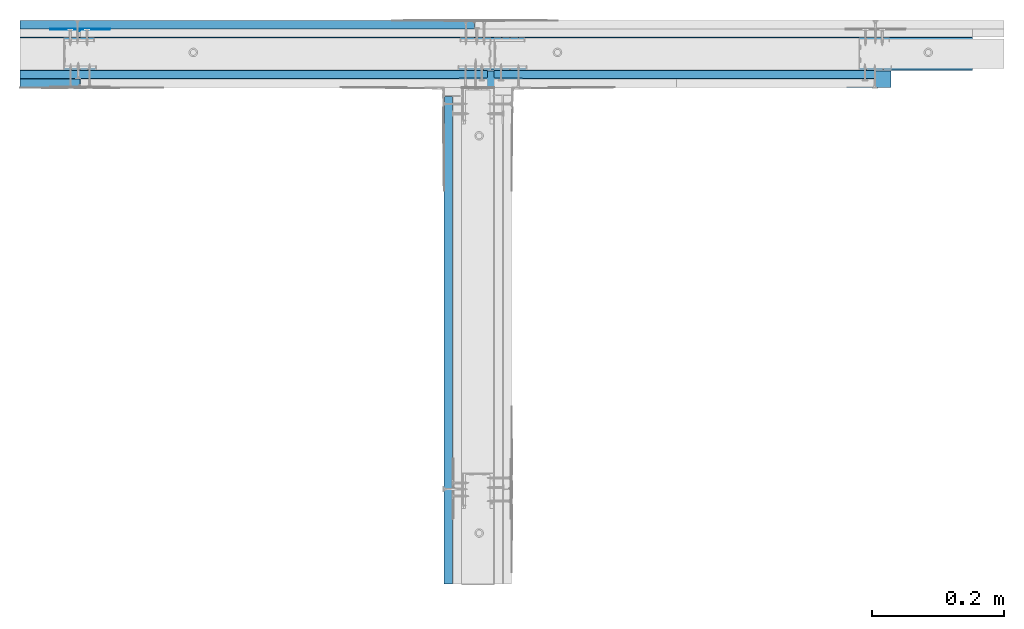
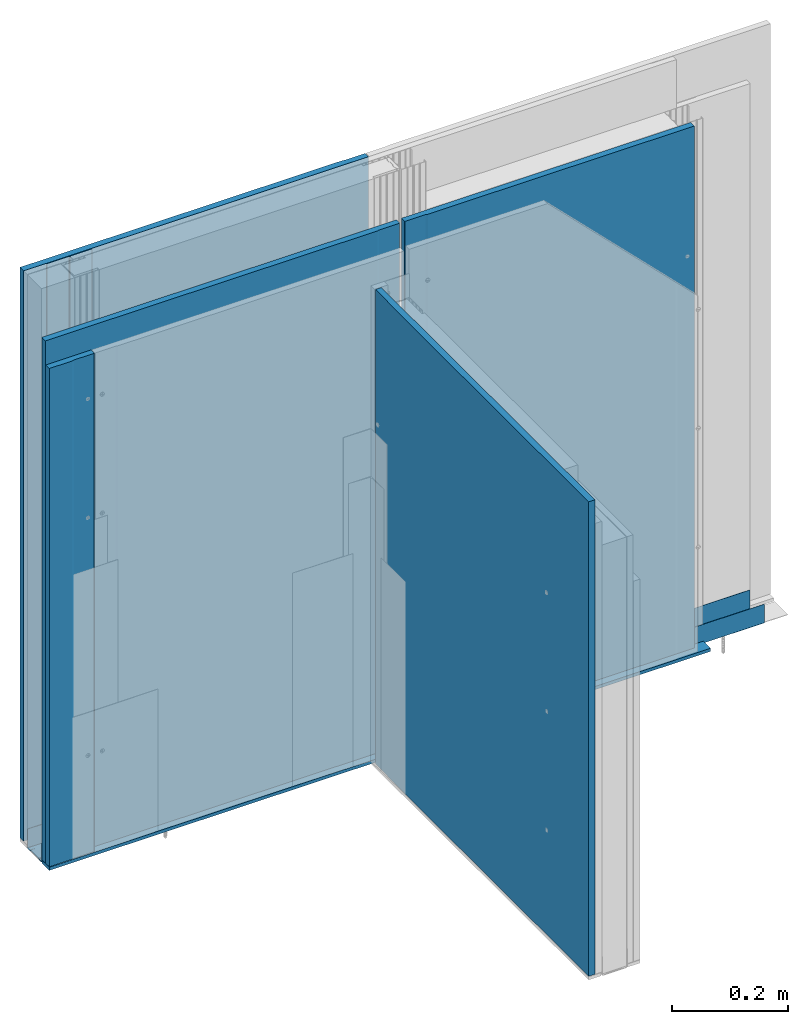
# One storey, part 4 of 95: 8 walls.
"""IFC2X3 building model written with IfcOpenShell, lengths in millimetres."""

from ifc_helpers import new_model, entity, si_unit, converted_unit, direction, frame, origin, origin_with_axes, place, context, project, spatial, faceted_brep, element, save


model = new_model("IFC2X3")

# Units and contexts
model_context = context("Model", 3, precision=1e-05, world=origin(), true_north=direction((0.0, 1.0, 0.0)))
ifc_project = project(units=[si_unit("LENGTHUNIT", "METRE", prefix="MILLI"), si_unit("AREAUNIT", "SQUARE_METRE"), si_unit("VOLUMEUNIT", "CUBIC_METRE"), converted_unit("PLANEANGLEUNIT", "DEGREE", entity("IfcPlaneAngleMeasure", 0.01745), si_unit("PLANEANGLEUNIT", "RADIAN"), dimensions=[0, 0, 0, 0, 0, 0, 0]), si_unit("SOLIDANGLEUNIT", "STERADIAN"), si_unit("MASSUNIT", "GRAM"), si_unit("TIMEUNIT", "SECOND"), si_unit("THERMODYNAMICTEMPERATUREUNIT", "DEGREE_CELSIUS"), si_unit("LUMINOUSINTENSITYUNIT", "LUMEN")], contexts=[model_context])

# Site, building, storey
site_placement = place(None, origin_with_axes())
site = spatial("IfcSite", under=ifc_project, at=site_placement, Name="Default Site", CompositionType="ELEMENT")
building_placement = place(site_placement, origin_with_axes())
building = spatial("IfcBuilding", under=site, at=building_placement, Name="Default Building", CompositionType="ELEMENT")
storey_placement = place(building_placement, origin_with_axes())
storey = spatial("IfcBuildingStorey", under=building, at=storey_placement, Name="Default Building Storey", CompositionType="ELEMENT", Elevation=0.0)

# Walls
wall_1_placement = place(storey_placement, frame((3345.250719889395, 5528.384991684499, 8.390395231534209), z_axis=(7.268591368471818e-14, -6.858158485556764e-13, 1.0), x_axis=(1.0, -1.018434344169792e-16, -7.988767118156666e-14)))
element("IfcWall", 1, at=wall_1_placement, inside=storey, Name="Profil RIGIPS UW 50 ULTRASTIL®", context=model_context, shape_type="Brep", body=[
    faceted_brep([(-1064.360336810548, -3470.476261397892, -4.901701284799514), (-1064.360336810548, -3470.287116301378, -4.783410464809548), (-1064.360336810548, -3470.128902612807, -4.626130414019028), (-1220.225586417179, -3470.128902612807, -4.626130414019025), (-1220.225586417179, -3470.476261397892, -4.901701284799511), (-1064.360336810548, -3470.063927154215, -4.535249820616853), (-1064.360336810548, -3470.009494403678, -4.437688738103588), (-1220.225586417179, -3470.009494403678, -4.437688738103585), (-1064.360336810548, -3440.279331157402, -4.783410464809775), (-1064.360336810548, -3440.090186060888, -4.901701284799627), (-1064.360336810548, -3439.87952304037, -4.97511570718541), (-1220.225586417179, -3439.87952304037, -4.975115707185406), (-1220.225586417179, -3440.279331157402, -4.783410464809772), (-1064.360336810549, -3440.819375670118, -2.866589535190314), (-1064.360336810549, -3441.008520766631, -2.748298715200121), (-1064.360336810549, -3441.219183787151, -2.674884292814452), (-1220.225586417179, -3441.219183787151, -2.67488429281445), (-1220.225586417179, -3440.819375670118, -2.866589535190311), (-1064.360336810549, -3469.55792669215, -2.74829871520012), (-1064.360336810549, -3469.747071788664, -2.866589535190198), (-1064.360336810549, -3469.905285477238, -3.023869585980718), (-1220.225586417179, -3469.905285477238, -3.023869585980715), (-1220.225586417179, -3469.55792669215, -2.748298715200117), (-1220.225586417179, -3479.733223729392, 35.00000000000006), (-1220.225586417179, -3480.283223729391, 35.00000000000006), (-1220.225586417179, -3480.283223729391, -4.199999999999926), (-1220.225586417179, -3480.273374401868, -4.325147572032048), (-1220.225586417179, -3480.244068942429, -4.447213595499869), (-1220.225586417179, -3480.196028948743, -4.563192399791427), (-1220.225586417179, -3480.130437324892, -4.670228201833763), (-1220.225586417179, -3480.048909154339, -4.765685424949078), (-1220.225586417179, -3479.953451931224, -4.847213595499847), (-1220.225586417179, -3479.846416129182, -4.912805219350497), (-1220.225586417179, -3479.73043732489, -4.960845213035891), (-1220.225586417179, -3479.608371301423, -4.99015067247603), (-1220.225586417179, -3479.483223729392, -4.999999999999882), (-1220.225586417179, -3470.908620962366, -4.999999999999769), (-1220.225586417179, -3470.686924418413, -4.975115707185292), (-1220.225586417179, -3469.680725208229, -3.762311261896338), (-1220.225586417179, -3469.561316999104, -3.573869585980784), (-1220.225586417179, -3469.403103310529, -3.416589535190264), (-1220.225586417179, -3469.213958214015, -3.298298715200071), (-1220.225586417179, -3469.003295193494, -3.224884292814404), (-1220.225586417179, -3468.781598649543, -3.199999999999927), (-1220.225586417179, -3441.78484880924, -3.199999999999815), (-1220.225586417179, -3441.563152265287, -3.224884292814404), (-1220.225586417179, -3441.352489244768, -3.298298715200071), (-1220.225586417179, -3441.163344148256, -3.416589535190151), (-1220.225586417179, -3441.005130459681, -3.573869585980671), (-1220.225586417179, -3440.885722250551, -3.762311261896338), (-1220.225586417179, -3440.556953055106, -4.437688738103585), (-1220.225586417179, -3440.437544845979, -4.626130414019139), (-1220.225586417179, -3439.657826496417, -4.999999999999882), (-1220.225586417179, -3431.083223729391, -4.999999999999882), (-1220.225586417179, -3430.95807615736, -4.990150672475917), (-1220.225586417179, -3430.83601013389, -4.960845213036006), (-1220.225586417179, -3430.720031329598, -4.912805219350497), (-1220.225586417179, -3430.612995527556, -4.847213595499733), (-1220.225586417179, -3430.51753830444, -4.765685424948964), (-1220.225586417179, -3430.436010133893, -4.670228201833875), (-1220.225586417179, -3430.370418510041, -4.563192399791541), (-1220.225586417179, -3430.322378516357, -4.447213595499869), (-1220.225586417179, -3430.293073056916, -4.325147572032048), (-1220.225586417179, -3430.283223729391, -4.199999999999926), (-1220.225586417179, -3430.283223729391, 35.00000000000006), (-1220.225586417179, -3430.833223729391, 35.00000000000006), (-1220.225586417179, -3430.833223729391, -4.199999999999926), (-1220.225586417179, -3430.836301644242, -4.23910861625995), (-1220.225586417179, -3430.845459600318, -4.27725424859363), (-1220.225586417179, -3430.860472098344, -4.313497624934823), (-1220.225586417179, -3430.880969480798, -4.346946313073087), (-1220.225586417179, -3430.906447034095, -4.376776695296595), (-1220.225586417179, -3430.936277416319, -4.402254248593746), (-1220.225586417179, -3430.969726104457, -4.422751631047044), (-1220.225586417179, -3431.005969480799, -4.437764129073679), (-1220.225586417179, -3431.044115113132, -4.44692208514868), (-1220.225586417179, -3431.083223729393, -4.449999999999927), (-1220.225586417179, -3439.313858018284, -4.45000000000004), (-1220.225586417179, -3439.535554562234, -4.425115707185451), (-1220.225586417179, -3439.746217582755, -4.351701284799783), (-1220.225586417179, -3439.935362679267, -4.233410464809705), (-1220.225586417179, -3440.093576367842, -4.076130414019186), (-1220.225586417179, -3440.212984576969, -3.887688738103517), (-1220.225586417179, -3440.541753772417, -3.212311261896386), (-1220.225586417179, -3440.661161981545, -3.02386958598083), (-1220.225586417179, -3441.440880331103, -2.649999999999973), (-1220.225586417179, -3469.125567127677, -2.649999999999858), (-1220.225586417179, -3469.347263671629, -2.674884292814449), (-1220.225586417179, -3470.024693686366, -3.212311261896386), (-1220.225586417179, -3470.353462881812, -3.887688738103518), (-1220.225586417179, -3470.472871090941, -4.076130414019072), (-1220.225586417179, -3470.631084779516, -4.233410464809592), (-1220.225586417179, -3470.820229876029, -4.351701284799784), (-1220.225586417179, -3471.030892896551, -4.425115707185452), (-1220.225586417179, -3471.252589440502, -4.449999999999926), (-1220.225586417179, -3479.483223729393, -4.449999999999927), (-1220.225586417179, -3479.522332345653, -4.446922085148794), (-1220.225586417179, -3479.560477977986, -4.437764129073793), (-1220.225586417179, -3479.596721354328, -4.422751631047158), (-1220.225586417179, -3479.630170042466, -4.402254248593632), (-1220.225586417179, -3479.660000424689, -4.376776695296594), (-1220.225586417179, -3479.685477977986, -4.346946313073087), (-1220.225586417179, -3479.705975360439, -4.313497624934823), (-1220.225586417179, -3479.720987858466, -4.27725424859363), (-1220.225586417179, -3479.730145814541, -4.23910861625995), (-1220.225586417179, -3479.733223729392, -4.199999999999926), (218.2120821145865, -3480.283223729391, -4.200000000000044), (218.2120821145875, -3480.283223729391, 35.0), (218.2120821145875, -3479.733223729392, 35.0), (218.2120821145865, -3479.733223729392, -4.200000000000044), (218.2120821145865, -3479.730145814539, -4.239108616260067), (218.2120821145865, -3479.720987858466, -4.277254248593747), (218.2120821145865, -3479.705975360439, -4.313497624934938), (218.2120821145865, -3479.685477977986, -4.346946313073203), (218.2120821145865, -3479.660000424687, -4.376776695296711), (218.2120821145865, -3479.630170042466, -4.402254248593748), (218.2120821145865, -3479.596721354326, -4.422751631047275), (218.2120821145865, -3479.560477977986, -4.43776412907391), (218.2120821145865, -3479.522332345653, -4.446922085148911), (218.2120821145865, -3479.483223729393, -4.450000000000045), (218.2120821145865, -3471.252589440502, -4.450000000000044), (218.2120821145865, -3471.030892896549, -4.425115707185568), (218.2120821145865, -3470.820229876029, -4.3517012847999), (218.2120821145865, -3470.631084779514, -4.233410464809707), (218.2120821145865, -3470.472871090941, -4.076130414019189), (218.2120821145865, -3470.353462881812, -3.887688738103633), (218.2120821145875, -3470.024693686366, -3.212311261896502), (218.2120821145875, -3469.905285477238, -3.023869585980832), (218.2120821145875, -3469.747071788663, -2.866589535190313), (218.2120821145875, -3469.55792669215, -2.748298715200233), (218.2120821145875, -3469.347263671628, -2.674884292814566), (218.2120821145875, -3469.125567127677, -2.649999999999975), (218.2120821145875, -3441.440880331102, -2.650000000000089), (218.2120821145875, -3441.219183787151, -2.674884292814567), (218.2120821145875, -3441.008520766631, -2.748298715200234), (218.2120821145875, -3440.819375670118, -2.866589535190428), (218.2120821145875, -3440.661161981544, -3.023869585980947), (218.2120821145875, -3440.541753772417, -3.212311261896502), (218.2120821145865, -3440.212984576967, -3.887688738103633), (218.2120821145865, -3440.093576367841, -4.076130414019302), (218.2120821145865, -3439.935362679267, -4.233410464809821), (218.2120821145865, -3439.746217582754, -4.3517012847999), (218.2120821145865, -3439.535554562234, -4.425115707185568), (218.2120821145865, -3439.313858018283, -4.450000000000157), (218.2120821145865, -3431.083223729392, -4.450000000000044), (218.2120821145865, -3431.044115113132, -4.446922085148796), (218.2120821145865, -3431.005969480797, -4.437764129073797), (218.2120821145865, -3430.969726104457, -4.422751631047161), (218.2120821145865, -3430.936277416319, -4.402254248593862), (218.2120821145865, -3430.906447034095, -4.376776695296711), (218.2120821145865, -3430.880969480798, -4.346946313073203), (218.2120821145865, -3430.860472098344, -4.313497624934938), (218.2120821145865, -3430.845459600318, -4.277254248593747), (218.2120821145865, -3430.836301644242, -4.239108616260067), (218.2120821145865, -3430.833223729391, -4.200000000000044), (218.2120821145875, -3430.833223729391, 35.0), (218.2120821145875, -3430.283223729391, 35.0), (218.2120821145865, -3430.283223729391, -4.200000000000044), (218.2120821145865, -3430.293073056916, -4.325147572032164), (218.2120821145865, -3430.322378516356, -4.447213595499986), (218.2120821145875, -3430.370418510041, -4.563192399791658), (218.2120821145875, -3430.436010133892, -4.670228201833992), (218.2120821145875, -3430.51753830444, -4.765685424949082), (218.2120821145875, -3430.612995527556, -4.84721359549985), (218.212082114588, -3430.720031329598, -4.912805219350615), (218.212082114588, -3430.83601013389, -4.960845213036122), (218.212082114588, -3430.958076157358, -4.990150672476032), (218.212082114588, -3431.083223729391, -4.999999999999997), (218.212082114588, -3439.657826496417, -4.999999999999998), (218.212082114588, -3439.879523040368, -4.975115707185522), (218.212082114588, -3440.090186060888, -4.901701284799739), (218.2120821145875, -3440.279331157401, -4.783410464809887), (218.2120821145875, -3440.437544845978, -4.626130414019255), (218.2120821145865, -3440.556953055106, -4.437688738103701), (218.2120821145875, -3440.88572225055, -3.762311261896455), (218.2120821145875, -3441.005130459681, -3.573869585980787), (218.2120821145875, -3441.163344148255, -3.416589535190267), (218.2120821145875, -3441.352489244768, -3.298298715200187), (218.2120821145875, -3441.563152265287, -3.22488429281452), (218.2120821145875, -3441.78484880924, -3.199999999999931), (218.2120821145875, -3468.781598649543, -3.200000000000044), (218.2120821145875, -3469.003295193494, -3.22488429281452), (218.2120821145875, -3469.213958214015, -3.298298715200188), (218.2120821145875, -3469.403103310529, -3.416589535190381), (218.2120821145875, -3469.561316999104, -3.5738695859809), (218.2120821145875, -3469.680725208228, -3.762311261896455), (218.2120821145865, -3470.009494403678, -4.437688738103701), (218.2120821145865, -3470.063927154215, -4.535249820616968), (218.2120821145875, -3470.128902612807, -4.626130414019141), (218.2120821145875, -3470.287116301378, -4.783410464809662), (218.212082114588, -3470.476261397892, -4.901701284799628), (218.212082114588, -3470.686924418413, -4.975115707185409), (218.212082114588, -3470.908620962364, -4.999999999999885), (218.212082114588, -3479.483223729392, -4.999999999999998), (218.212082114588, -3479.608371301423, -4.990150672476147), (218.212082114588, -3479.730437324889, -4.960845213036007), (218.212082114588, -3479.846416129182, -4.912805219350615), (218.2120821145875, -3479.953451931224, -4.847213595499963), (218.2120821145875, -3480.048909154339, -4.765685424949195), (218.2120821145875, -3480.130437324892, -4.670228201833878), (218.2120821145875, -3480.196028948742, -4.563192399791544), (218.2120821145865, -3480.244068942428, -4.447213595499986), (218.2120821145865, -3480.273374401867, -4.325147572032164)], [[[0, 1, 2, 3, 4]], [[2, 5, 6, 7, 3]], [[8, 9, 10, 11, 12]], [[13, 14, 15, 16, 17]], [[18, 19, 20, 21, 22]], [[23, 24, 25, 26, 27, 28, 29, 30, 31, 32, 33, 34, 35, 36, 37, 4, 3, 7, 38, 39, 40, 41, 42, 43, 44, 45, 46, 47, 48, 49, 50, 51, 12, 11, 52, 53, 54, 55, 56, 57, 58, 59, 60, 61, 62, 63, 64, 65, 66, 67, 68, 69, 70, 71, 72, 73, 74, 75, 76, 77, 78, 79, 80, 81, 82, 83, 84, 17, 16, 85, 86, 87, 22, 21, 88, 89, 90, 91, 92, 93, 94, 95, 96, 97, 98, 99, 100, 101, 102, 103, 104, 105]], [[106, 107, 108, 109, 110, 111, 112, 113, 114, 115, 116, 117, 118, 119, 120, 121, 122, 123, 124, 125, 126, 127, 128, 129, 130, 131, 132, 133, 134, 135, 136, 137, 138, 139, 140, 141, 142, 143, 144, 145, 146, 147, 148, 149, 150, 151, 152, 153, 154, 155, 156, 157, 158, 159, 160, 161, 162, 163, 164, 165, 166, 167, 168, 169, 170, 171, 172, 173, 174, 175, 176, 177, 178, 179, 180, 181, 182, 183, 184, 185, 186, 187, 188, 189, 190, 191, 192, 193, 194, 195, 196, 197, 198, 199, 200, 201, 202]], [[63, 157, 156, 64]], [[64, 156, 155, 65]], [[65, 155, 154, 66]], [[144, 76, 75, 145]], [[74, 146, 145, 75]], [[73, 147, 146, 74]], [[147, 73, 72, 148]], [[71, 149, 148, 72]], [[149, 71, 70, 150]], [[69, 151, 150, 70]], [[68, 152, 151, 69]], [[152, 68, 67, 153]], [[66, 154, 153, 67]], [[76, 144, 143, 77]], [[81, 139, 138, 82]], [[80, 140, 139, 81]], [[79, 141, 140, 80]], [[143, 142, 78, 77]], [[78, 142, 141, 79]], [[82, 138, 137, 83]], [[15, 133, 132, 85, 16]], [[14, 134, 133, 15]], [[13, 135, 134, 14]], [[84, 136, 135, 13, 17]], [[137, 136, 84, 83]], [[85, 132, 131, 86]], [[20, 127, 126, 88, 21]], [[19, 128, 127, 20]], [[18, 129, 128, 19]], [[87, 130, 129, 18, 22]], [[131, 130, 87, 86]], [[88, 126, 125, 89]], [[93, 121, 120, 94]], [[92, 122, 121, 93]], [[91, 123, 122, 92]], [[125, 124, 90, 89]], [[90, 124, 123, 91]], [[94, 120, 119, 95]], [[109, 105, 104, 110]], [[103, 111, 110, 104]], [[102, 112, 111, 103]], [[112, 102, 101, 113]], [[100, 114, 113, 101]], [[114, 100, 99, 115]], [[98, 116, 115, 99]], [[97, 117, 116, 98]], [[117, 97, 96, 118]], [[95, 119, 118, 96]], [[105, 109, 108, 23]], [[23, 108, 107, 24]], [[24, 107, 106, 25]], [[33, 195, 194, 34]], [[194, 193, 35, 34]], [[32, 196, 195, 33]], [[30, 198, 197, 31]], [[197, 196, 32, 31]], [[28, 200, 199, 29]], [[199, 198, 30, 29]], [[27, 201, 200, 28]], [[25, 106, 202, 26]], [[202, 201, 27, 26]], [[35, 193, 192, 36]], [[5, 2, 188, 187]], [[187, 186, 6, 5]], [[1, 189, 188, 2]], [[0, 190, 189, 1]], [[37, 191, 190, 0, 4]], [[192, 191, 37, 36]], [[6, 186, 185, 38, 7]], [[42, 181, 180, 43]], [[41, 182, 181, 42]], [[40, 183, 182, 41]], [[185, 184, 39, 38]], [[39, 184, 183, 40]], [[43, 180, 179, 44]], [[48, 175, 174, 49]], [[47, 176, 175, 48]], [[46, 177, 176, 47]], [[179, 178, 45, 44]], [[45, 178, 177, 46]], [[49, 174, 173, 50]], [[10, 169, 168, 52, 11]], [[9, 170, 169, 10]], [[8, 171, 170, 9]], [[51, 172, 171, 8, 12]], [[173, 172, 51, 50]], [[52, 168, 167, 53]], [[61, 159, 158, 62]], [[158, 157, 63, 62]], [[60, 160, 159, 61]], [[58, 162, 161, 59]], [[161, 160, 60, 59]], [[56, 164, 163, 57]], [[163, 162, 58, 57]], [[55, 165, 164, 56]], [[53, 167, 166, 54]], [[166, 165, 55, 54]]]),
])
wall_2_placement = place(storey_placement, frame((2953.004115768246, -1279.954953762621, 457.7387577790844), z_axis=(0.0, 0.0, 1.0), x_axis=(1.0, 0.0, 0.0)))
element("IfcWall", 2, at=wall_2_placement, inside=storey, Name="Dedykowana masa szpachlowa Rigips - konstrukcyjna", context=model_context, shape_type="Brep", body=[
    faceted_brep([(-737.48383966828, 3387.669590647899, 752.2612422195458), (-737.4592163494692, 3387.356721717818, 752.2612422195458), (-737.4345930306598, 3387.669590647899, 752.2612422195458), (-737.3613293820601, 3387.974755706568, 752.2612422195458), (-737.2412293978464, 3388.264702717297, 752.2612422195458), (-737.0772503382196, 3388.532292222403, 752.2612422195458), (-736.8734299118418, 3388.770935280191, 752.2612422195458), (-736.6347868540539, 3388.974755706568, 752.2612422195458), (-736.3671973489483, 3389.138734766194, 752.2612422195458), (-736.0772503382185, 3389.258834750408, 752.2612422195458), (-735.7720852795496, 3389.332098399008, 752.2612422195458), (-735.4592163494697, 3389.356721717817, 752.2612422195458), (-692.4592163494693, 3389.356721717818, 752.2612422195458), (-691.4592163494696, 3390.556721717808, 752.2612422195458), (-782.4592163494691, 3390.556721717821, 752.2612422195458), (-782.4592163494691, 3389.356721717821, 752.2612422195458), (-739.4592163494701, 3389.356721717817, 752.2612422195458), (-739.1463474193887, 3389.332098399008, 752.2612422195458), (-738.8411823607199, 3389.258834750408, 752.2612422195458), (-738.5512353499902, 3389.138734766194, 752.2612422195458), (-738.2836458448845, 3388.974755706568, 752.2612422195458), (-738.0450027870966, 3388.770935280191, 752.2612422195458), (-737.8411823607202, 3388.532292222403, 752.2612422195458), (-737.6772033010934, 3388.264702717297, 752.2612422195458), (-737.5571033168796, 3387.974755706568, 752.2612422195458), (-691.4592163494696, 3390.556721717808, -447.7403394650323), (-692.4592163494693, 3389.356721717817, -447.7403394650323), (-735.4592163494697, 3389.356721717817, -447.7403394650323), (-735.7720852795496, 3389.332098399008, -447.7403394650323), (-736.0772503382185, 3389.258834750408, -447.7403394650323), (-736.3671973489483, 3389.138734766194, -447.7403394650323), (-736.6347868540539, 3388.974755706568, -447.7403394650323), (-736.8734299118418, 3388.77093528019, -447.7403394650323), (-737.0772503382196, 3388.532292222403, -447.7403394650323), (-737.2412293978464, 3388.264702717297, -447.7403394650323), (-737.3613293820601, 3387.974755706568, -447.7403394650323), (-737.4345930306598, 3387.669590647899, -447.7403394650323), (-737.4592163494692, 3387.356721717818, -447.7403394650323), (-737.48383966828, 3387.669590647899, -447.7403394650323), (-737.5571033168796, 3387.974755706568, -447.7403394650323), (-737.6772033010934, 3388.264702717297, -447.7403394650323), (-737.8411823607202, 3388.532292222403, -447.7403394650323), (-738.0450027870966, 3388.77093528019, -447.7403394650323), (-738.2836458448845, 3388.974755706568, -447.7403394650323), (-738.5512353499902, 3389.138734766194, -447.7403394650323), (-738.8411823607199, 3389.258834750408, -447.7403394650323), (-739.1463474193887, 3389.332098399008, -447.7403394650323), (-739.4592163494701, 3389.356721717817, -447.7403394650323), (-782.4592163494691, 3389.356721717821, -447.7403394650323), (-782.4592163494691, 3390.556721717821, -447.7403394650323)], [[[0, 1, 2, 3, 4, 5, 6, 7, 8, 9, 10, 11, 12, 13, 14, 15, 16, 17, 18, 19, 20, 21, 22, 23, 24]], [[25, 26, 27, 28, 29, 30, 31, 32, 33, 34, 35, 36, 37, 38, 39, 40, 41, 42, 43, 44, 45, 46, 47, 48, 49]], [[26, 12, 11, 27]], [[10, 9, 29, 28]], [[28, 27, 11, 10]], [[8, 30, 29, 9]], [[7, 6, 32, 31]], [[31, 30, 8, 7]], [[5, 4, 34, 33]], [[33, 32, 6, 5]], [[3, 35, 34, 4]], [[2, 1, 37, 36]], [[36, 35, 3, 2]], [[0, 24, 39, 38]], [[38, 37, 1, 0]], [[23, 40, 39, 24]], [[22, 21, 42, 41]], [[41, 40, 23, 22]], [[20, 19, 44, 43]], [[43, 42, 21, 20]], [[18, 45, 44, 19]], [[17, 16, 47, 46]], [[46, 45, 18, 17]], [[47, 16, 15, 48]], [[48, 15, 14, 49]], [[49, 14, 13, 25]], [[25, 13, 12, 26]]]),
])
wall_3_placement = place(storey_placement, frame((2811.544899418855, 2110.601767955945, 1155.534172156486), z_axis=(0.0, 0.0, 1.0), x_axis=(-1.0, 0.0, 0.0)))
element("IfcWall", 3, at=wall_3_placement, inside=storey, Name="Płyta gipsowo-kartonowa RIGIPS PRO (4PRO™)", context=model_context, shape_type="Brep", body=[
    faceted_brep([(686.5197659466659, -12.49999999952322, 54.46582784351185), (686.5197659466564, 4.490289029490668e-10, 54.46582784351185), (686.5197659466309, 4.490289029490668e-10, -1145.535753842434), (686.5197659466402, -12.49999999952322, -1145.535753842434), (44.99999999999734, -12.50000000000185, 54.46582784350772), (40.99999999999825, -11.50000000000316, 54.46582784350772), (0.9999999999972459, -11.50000000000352, 54.46582784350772), (0.7411809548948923, -11.46592582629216, 54.46582784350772), (0.4999999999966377, -11.36602540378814, 54.46582784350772), (0.2928932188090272, -11.20710678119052, 54.46582784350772), (0.1339745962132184, -11.00000000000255, 54.46582784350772), (0.0340741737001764, -10.75881904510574, 54.46582784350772), (-3.248601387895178e-12, -10.50000000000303, 54.46582784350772), (-1.082867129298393e-12, 3.609557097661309e-13, 54.46582784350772), (44.99999999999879, -12.4999999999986, -1145.535753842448), (40.9999999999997, -11.49999999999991, -1145.535753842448), (0.9999999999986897, -11.50000000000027, -1145.535753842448), (0.7411809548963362, -11.46592582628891, -1145.535753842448), (0.4999999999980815, -11.36602540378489, -1145.535753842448), (0.292893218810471, -11.20710678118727, -1145.535753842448), (0.1339745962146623, -10.9999999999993, -1145.535753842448), (0.03407417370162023, -10.75881904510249, -1145.535753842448), (-1.804778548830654e-12, -10.49999999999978, -1145.535753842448), (3.609557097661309e-13, 3.609557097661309e-12, -1145.535753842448)], [[[0, 1, 2, 3]], [[0, 4, 5, 6, 7, 8, 9, 10, 11, 12, 13, 1]], [[3, 14, 4, 0]], [[5, 4, 14, 15]], [[6, 5, 15, 16]], [[7, 6, 16, 17]], [[8, 7, 17, 18]], [[9, 8, 18, 19]], [[10, 9, 19, 20]], [[11, 10, 20, 21]], [[12, 11, 21, 22]], [[13, 12, 22, 23]], [[2, 1, 13, 23]], [[14, 3, 2, 23, 22, 21, 20, 19, 18, 17, 16, 15]]]),
])
wall_4_placement = place(storey_placement, frame((2830.935050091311, 2048.101767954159, 1155.534172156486), z_axis=(0.0, 0.0, 1.0), x_axis=(-1.0, 6.389333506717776e-13, 0.0)))
element("IfcWall", 4, at=wall_4_placement, inside=storey, Name="Płyta gipsowo-kartonowa RIGIPS PRO (4PRO™)", context=model_context, shape_type="Brep", body=[
    faceted_brep([(705.9099166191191, 12.49999999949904, -47.28517490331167), (705.909916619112, -4.732129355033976e-10, -47.28517490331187), (705.909916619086, -4.699643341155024e-10, -1145.535753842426), (705.9099166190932, 12.49999999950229, -1145.535753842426), (44.99999999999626, 12.50000000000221, -47.28517490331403), (40.99999999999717, 11.50000000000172, -47.28517490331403), (0.999999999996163, 11.50000000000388, -47.28517490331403), (0.7411809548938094, 11.4659258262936, -47.28517490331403), (0.4999999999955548, 11.3660254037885, -47.28517490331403), (0.29289321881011, 11.20710678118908, -47.28517490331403), (0.1339745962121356, 11.00000000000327, -47.28517490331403), (0.03407417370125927, 10.7588190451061, -47.28517490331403), (-1.443822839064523e-12, 10.50000000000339, -47.28517490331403), (0.0, 0.0, -47.28517490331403), (44.99999999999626, 12.50000000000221, -1145.535753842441), (40.99999999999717, 11.50000000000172, -1145.535753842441), (0.999999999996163, 11.50000000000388, -1145.535753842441), (0.7411809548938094, 11.4659258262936, -1145.535753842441), (0.4999999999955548, 11.3660254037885, -1145.535753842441), (0.29289321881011, 11.20710678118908, -1145.535753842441), (0.1339745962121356, 11.00000000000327, -1145.535753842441), (0.03407417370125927, 10.7588190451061, -1145.535753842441), (-1.443822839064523e-12, 10.50000000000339, -1145.535753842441), (0.0, 0.0, -1145.535753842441)], [[[0, 1, 2, 3]], [[0, 4, 5, 6, 7, 8, 9, 10, 11, 12, 13, 1]], [[3, 14, 4, 0]], [[5, 4, 14, 15]], [[6, 5, 15, 16]], [[7, 6, 16, 17]], [[8, 7, 17, 18]], [[9, 8, 18, 19]], [[10, 9, 19, 20]], [[11, 10, 20, 21]], [[12, 11, 21, 22]], [[13, 12, 22, 23]], [[2, 1, 13, 23]], [[14, 3, 2, 23, 22, 21, 20, 19, 18, 17, 16, 15]]]),
])
wall_5_placement = place(storey_placement, frame((2840.935050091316, 2048.101767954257, 1330.5781364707), z_axis=(0.0, 0.0, 1.0), x_axis=(1.0, 0.0, 0.0)))
element("IfcWall", 5, at=wall_5_placement, inside=storey, Name="Płyta gipsowo-kartonowa RIGIPS PRO (4PRO™)", context=model_context, shape_type="Brep", body=[
    faceted_brep([(275.1872183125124, 5.450431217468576e-11, -222.3291392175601), (575.6875532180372, 3.39298367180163e-11, -222.3291392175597), (575.6875532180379, -12.49999999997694, -222.3291392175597), (44.99999999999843, -12.49999999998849, -222.3291392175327), (40.99999999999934, -11.4999999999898, -222.3291392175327), (0.9999999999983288, -11.49999999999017, -222.3291392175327), (0.7411809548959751, -11.46592582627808, -222.3291392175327), (0.4999999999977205, -11.36602540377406, -222.3291392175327), (0.29289321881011, -11.20710678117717, -222.3291392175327), (0.1339745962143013, -10.99999999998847, -222.3291392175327), (0.03407417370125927, -10.75881904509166, -222.3291392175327), (-3.97051280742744e-12, -10.49999999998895, -222.3291392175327), (0.0, 1.443822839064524e-11, -222.3291392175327), (575.6875532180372, 1.949160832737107e-11, -599.6691293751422), (575.6875532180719, -1.40772726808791e-11, -1320.579718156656), (575.6875532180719, -12.49999999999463, -1320.579718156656), (45.0000000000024, -12.49999999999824, -1320.579718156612), (41.00000000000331, -11.49999999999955, -1320.579718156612), (1.000000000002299, -11.49999999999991, -1320.579718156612), (0.7411809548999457, -11.46592582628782, -1320.579718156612), (0.5000000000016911, -11.36602540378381, -1320.579718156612), (0.2928932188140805, -11.20710678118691, -1320.579718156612), (0.1339745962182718, -10.99999999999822, -1320.579718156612), (0.03407417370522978, -10.75881904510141, -1320.579718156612), (0.0, -10.49999999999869, -1320.579718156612), (3.97051280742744e-12, 4.692424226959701e-12, -1320.579718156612)], [[[0, 1, 2, 3, 4, 5, 6, 7, 8, 9, 10, 11, 12]], [[1, 13, 14, 15, 2]], [[2, 15, 16, 3]], [[0, 13, 1]], [[3, 16, 17, 4]], [[4, 17, 18, 5]], [[5, 18, 19, 6]], [[6, 19, 20, 7]], [[7, 20, 21, 8]], [[8, 21, 22, 9]], [[9, 22, 23, 10]], [[10, 23, 24, 11]], [[11, 24, 25, 12]], [[13, 0, 12, 25, 14]], [[14, 25, 24, 23, 22, 21, 20, 19, 18, 17, 16, 15]]]),
])
wall_6_placement = place(storey_placement, frame((3436.430006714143, 2022.140922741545, 2.384025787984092), z_axis=(0.0, 0.0, 1.0), x_axis=(1.0, 0.0, 0.0)))
element("IfcWall", 6, at=wall_6_placement, inside=storey, Name="Dedykowana masa szpachlowa Rigips - konstrukcyjna", context=model_context, shape_type="Brep", body=[
    faceted_brep([(4.189213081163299, 24.6461696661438, 0.0), (4.189213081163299, 0.0, 0.0), (-1311.404873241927, 0.0, 0.0), (-1311.404873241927, 24.6461696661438, 0.0), (4.189213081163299, 0.0, 6.614392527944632), (-1311.404873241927, 0.0, 6.614392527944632), (4.189213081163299, 24.6461696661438, 6.614392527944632), (-1311.404873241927, 24.6461696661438, 6.614392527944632)], [[[0, 1, 2, 3]], [[1, 4, 5, 2]], [[4, 6, 7, 5]], [[6, 0, 3, 7]], [[7, 3, 2, 5]], [[0, 6, 4, 1]]]),
])
wall_7_placement = place(storey_placement, frame((2215.544899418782, 2034.601767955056, 1403.656223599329), z_axis=(0.0, 0.0, 1.0), x_axis=(-1.0, 0.0, 0.0)))
element("IfcWall", 7, at=wall_7_placement, inside=storey, Name="Płyta gipsowo-kartonowa RIGIPS PRO (4PRO™)", context=model_context, shape_type="Brep", body=[
    faceted_brep([(90.5197659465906, 12.49999999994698, -345.407226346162), (90.51976594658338, -5.450431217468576e-11, -345.407226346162), (90.51976594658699, -5.630909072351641e-11, -1393.657805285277), (90.5197659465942, 12.49999999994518, -1393.657805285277), (-2.165734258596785e-12, 2.165734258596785e-12, -345.4072263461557), (44.99999999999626, 12.5000000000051, -345.4072263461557), (40.99999999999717, 11.50000000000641, -345.4072263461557), (0.999999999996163, 11.50000000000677, -345.4072263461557), (0.7411809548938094, 11.46592582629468, -345.4072263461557), (0.4999999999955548, 11.36602540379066, -345.4072263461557), (0.2928932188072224, 11.20710678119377, -345.4072263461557), (0.1339745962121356, 11.00000000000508, -345.4072263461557), (0.03407417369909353, 10.75881904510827, -345.4072263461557), (-5.053379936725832e-12, 10.50000000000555, -345.4072263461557), (44.99999999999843, 12.50000000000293, -1393.657805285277), (40.99999999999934, 11.50000000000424, -1393.657805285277), (0.9999999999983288, 11.5000000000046, -1393.657805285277), (0.7411809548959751, 11.46592582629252, -1393.657805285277), (0.4999999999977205, 11.3660254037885, -1393.657805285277), (0.2928932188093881, 11.20710678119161, -1393.657805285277), (0.1339745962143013, 11.00000000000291, -1393.657805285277), (0.03407417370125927, 10.7588190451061, -1393.657805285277), (-2.887645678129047e-12, 10.50000000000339, -1393.657805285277), (0.0, 0.0, -1393.657805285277)], [[[0, 1, 2, 3]], [[4, 1, 0, 5, 6, 7, 8, 9, 10, 11, 12, 13]], [[0, 3, 14, 5]], [[6, 5, 14, 15]], [[7, 6, 15, 16]], [[8, 7, 16, 17]], [[9, 8, 17, 18]], [[10, 9, 18, 19]], [[11, 10, 19, 20]], [[12, 11, 20, 21]], [[13, 12, 21, 22]], [[4, 13, 22, 23]], [[23, 2, 1, 4]], [[14, 3, 2, 23, 22, 21, 20, 19, 18, 17, 16, 15]]]),
])
wall_8_placement = place(storey_placement, frame((2777.974108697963, 808.770002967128, 1160.00000000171), z_axis=(0.0, 0.0, 1.0), x_axis=(-6.387668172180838e-13, 1.0, 0.0)))
element("IfcWall", 8, at=wall_8_placement, inside=storey, Name="Płyta gipsowo-kartonowa RIGIPS PRO (4PRO™)", context=model_context, shape_type="Brep", body=[
    faceted_brep([(463.3677895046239, -1.768682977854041e-10, -151.7510027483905), (463.3677895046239, 12.50000000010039, -151.7510027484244), (463.3677895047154, 12.4999999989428, -1150.001581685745), (463.3677895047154, -1.334453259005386e-09, -1150.001581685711), (1155.000000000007, 12.50000000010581, -151.7510027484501), (1200.000000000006, 1.122572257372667e-10, -151.7510027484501), (1200.000000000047, 10.5000000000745, -151.7510027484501), (1199.965925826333, 10.75881904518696, -151.7510027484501), (1199.866025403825, 11.00000000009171, -151.7510027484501), (1199.707106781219, 11.20710678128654, -151.7510027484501), (1199.500000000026, 11.36602540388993, -151.7510027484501), (1199.258819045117, 11.46592582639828, -151.7510027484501), (1199.000000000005, 11.50000000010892, -151.7510027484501), (1159.000000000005, 11.50000000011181, -151.7510027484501), (1199.965925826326, 10.75881904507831, -1150.001581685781), (1199.866025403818, 10.99999999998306, -1150.001581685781), (1199.707106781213, 11.20710678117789, -1150.001581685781), (1199.50000000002, 11.36602540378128, -1150.001581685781), (1199.258819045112, 11.46592582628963, -1150.001581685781), (1198.999999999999, 11.50000000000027, -1150.001581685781), (1158.999999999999, 11.50000000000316, -1150.001581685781), (1155.0, 12.49999999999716, -1150.001581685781), (1200.0, 3.609557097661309e-12, -1150.001581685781), (1200.000000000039, 10.49999999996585, -1150.001581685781)], [[[0, 1, 2, 3]], [[4, 1, 0, 5, 6, 7, 8, 9, 10, 11, 12, 13]], [[8, 7, 14, 15]], [[9, 8, 15, 16]], [[10, 9, 16, 17]], [[11, 10, 17, 18]], [[12, 11, 18, 19]], [[13, 12, 19, 20]], [[4, 13, 20, 21]], [[21, 2, 1, 4]], [[0, 3, 22, 5]], [[6, 5, 22, 23]], [[7, 6, 23, 14]], [[14, 23, 22, 3, 2, 21, 20, 19, 18, 17, 16, 15]]]),
])

save(model, "model.ifc")
